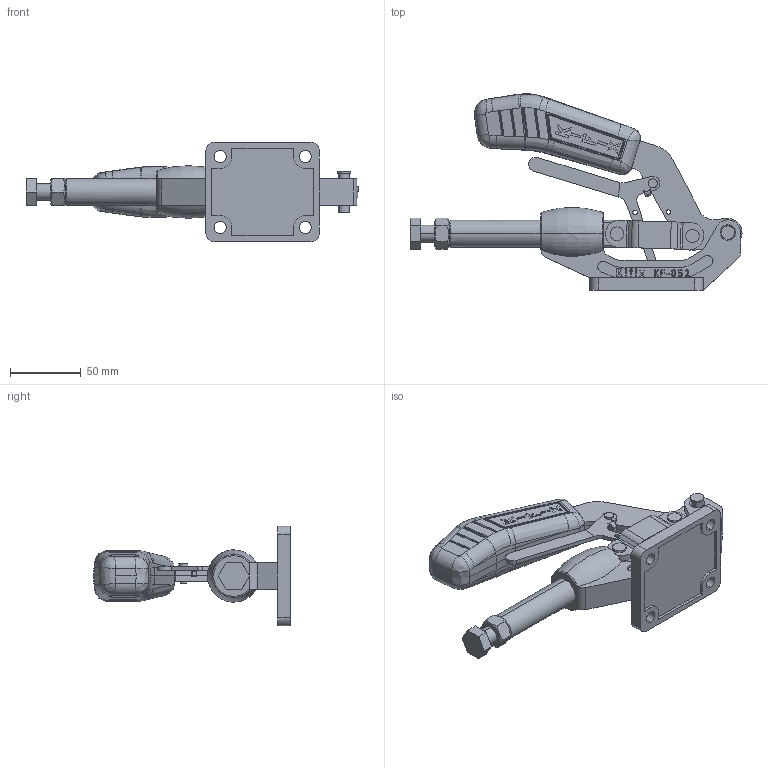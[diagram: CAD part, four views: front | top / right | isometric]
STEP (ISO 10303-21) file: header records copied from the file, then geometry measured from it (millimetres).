
FILE_DESCRIPTION (( 'STEP AP203' ), '1' );
FILE_NAME ('KF-052 TR.STEP', '2017-08-09T19:49:14', ( 'Ricardo' ), ( '' ), 'SwSTEP 2.0', 'SolidWorks 2015', '' );
FILE_SCHEMA (( 'CONFIG_CONTROL_DESIGN' ));
Length unit declared in the file: millimetre
Products named in the file (13): 11.50004; 12.50022; 02.30010; PP-M12; 01.10114; 18.10018; 01.10115; 06.50006; 03.20039; KF-052 TR; 08.10043; 06.50026; 07.60003
Assembly tree (15 placements, depth 3):
  KF-052 TR
    02.30010
    01.10114
    01.10115
    03.20039
    08.10043  x2
    06.50026  x3
    07.60003
    PP-M12
      11.50004
      12.50022
    18.10018
    06.50006
Bounding box: 233.98 x 138.54 x 70 mm (x, y, z)
Volume: 298461.2 mm3; surface area: 98480.2 mm2
Topology: 14 solids, 14 shells, 1085 faces, 2816 edges, 1799 vertices
Faces by surface type: plane 424, bspline 341, cylinder 238, sphere 48, cone 24, torus 10
Entity records: 44408 total; most frequent: CARTESIAN_POINT 20311, ORIENTED_EDGE 5360, DIRECTION 3631, EDGE_CURVE 2680, VERTEX_POINT 1727, AXIS2_PLACEMENT_3D 1219, LINE 1193, VECTOR 1193
